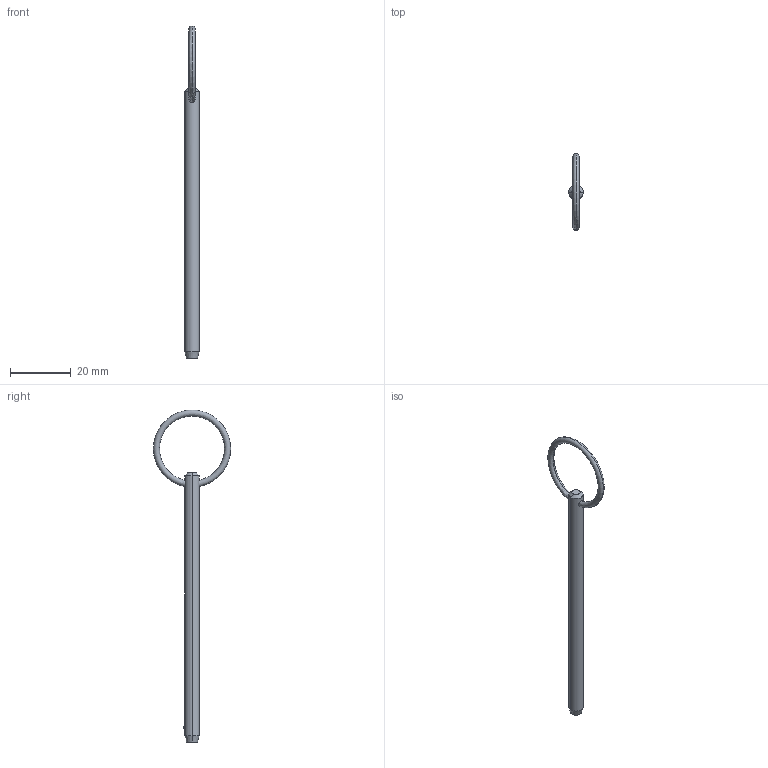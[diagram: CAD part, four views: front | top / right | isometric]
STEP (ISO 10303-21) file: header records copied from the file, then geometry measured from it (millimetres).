
FILE_DESCRIPTION (( 'STEP AP203' ), '1' );
FILE_NAME ('P1250.018-310.step', '2019-07-29T19:35:41', ( '' ), ( '' ), 'SwSTEP 2.0', 'SolidWorks 2017', '' );
FILE_SCHEMA (( 'CONFIG_CONTROL_DESIGN' ));
Length unit declared in the file: millimetre
Products named in the file (1): P1250.018-310
Bounding box: 4.76 x 25.4 x 109.18 mm (x, y, z)
Volume: 1777.8 mm3; surface area: 1766.9 mm2
Topology: 1 solids, 1 shells, 12 faces, 28 edges, 17 vertices
Faces by surface type: cone 4, torus 2, sphere 2, cylinder 2, plane 2
Entity records: 471 total; most frequent: CARTESIAN_POINT 138, DIRECTION 56, ORIENTED_EDGE 48, AXIS2_PLACEMENT_3D 25, EDGE_CURVE 24, VERTEX_POINT 15, EDGE_LOOP 15, FACE_OUTER_BOUND 12
